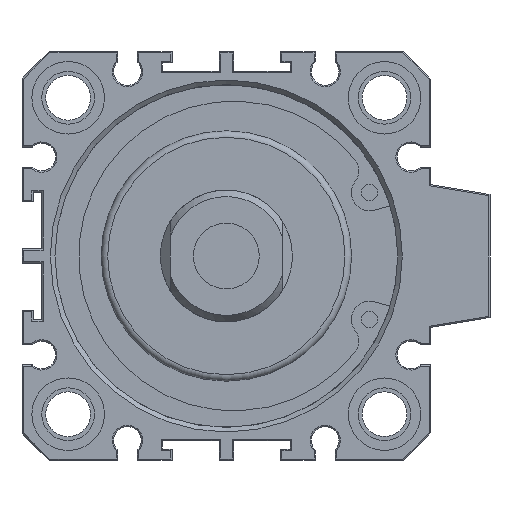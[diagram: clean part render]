
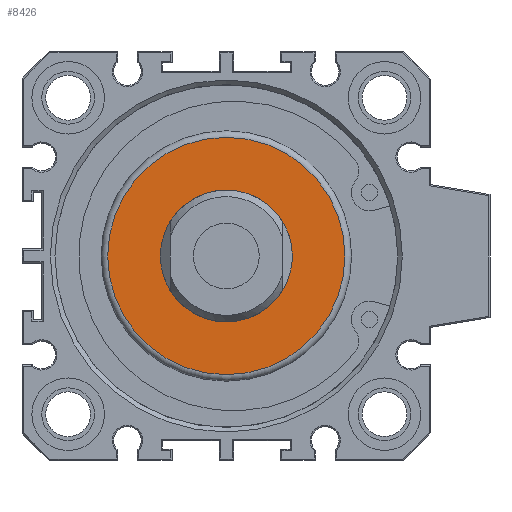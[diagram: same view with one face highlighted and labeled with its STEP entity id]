
A CAD part, front view. The second image highlights one B-rep face of the part: STEP entity #8426.
In plain terms, the highlighted planar face has unit normal (0, -1, 0).
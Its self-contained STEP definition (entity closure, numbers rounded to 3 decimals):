
#1315=PLANE('',#8874);
#1683=ORIENTED_EDGE('',*,*,#3221,.F.);
#1684=ORIENTED_EDGE('',*,*,#3219,.T.);
#3219=EDGE_CURVE('',#4009,#4009,#4475,.T.);
#3221=EDGE_CURVE('',#4011,#4011,#4477,.T.);
#4009=VERTEX_POINT('',#11318);
#4011=VERTEX_POINT('',#11324);
#4475=CIRCLE('',#8871,10.);
#4477=CIRCLE('',#8875,18.);
#4701=EDGE_LOOP('',(#1683));
#4702=EDGE_LOOP('',(#1684));
#5171=FACE_BOUND('',#4701,.T.);
#5172=FACE_BOUND('',#4702,.T.);
#8426=ADVANCED_FACE('',(#5171,#5172),#1315,.F.);
#8871=AXIS2_PLACEMENT_3D('',#11317,#9569,#9570);
#8874=AXIS2_PLACEMENT_3D('',#11322,#9575,#9576);
#8875=AXIS2_PLACEMENT_3D('',#11323,#9577,#9578);
#9569=DIRECTION('',(0.,1.,0.));
#9570=DIRECTION('',(-1.,0.,0.));
#9575=DIRECTION('',(0.,1.,0.));
#9576=DIRECTION('',(-1.,0.,0.));
#9577=DIRECTION('',(0.,1.,0.));
#9578=DIRECTION('',(-1.,0.,0.));
#11317=CARTESIAN_POINT('',(0.,-4.,0.));
#11318=CARTESIAN_POINT('',(-10.,-4.,0.));
#11322=CARTESIAN_POINT('',(0.,-4.,-10.));
#11323=CARTESIAN_POINT('',(0.,-4.,0.));
#11324=CARTESIAN_POINT('',(-18.,-4.,0.));
